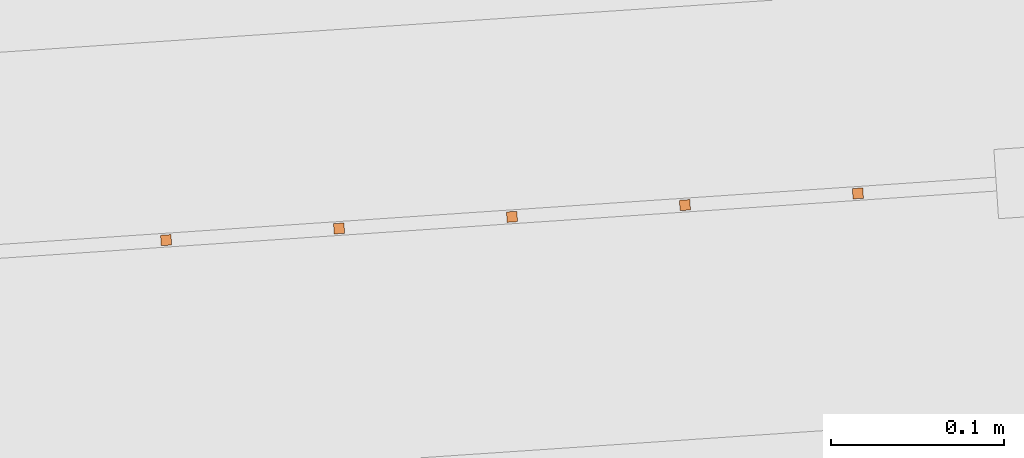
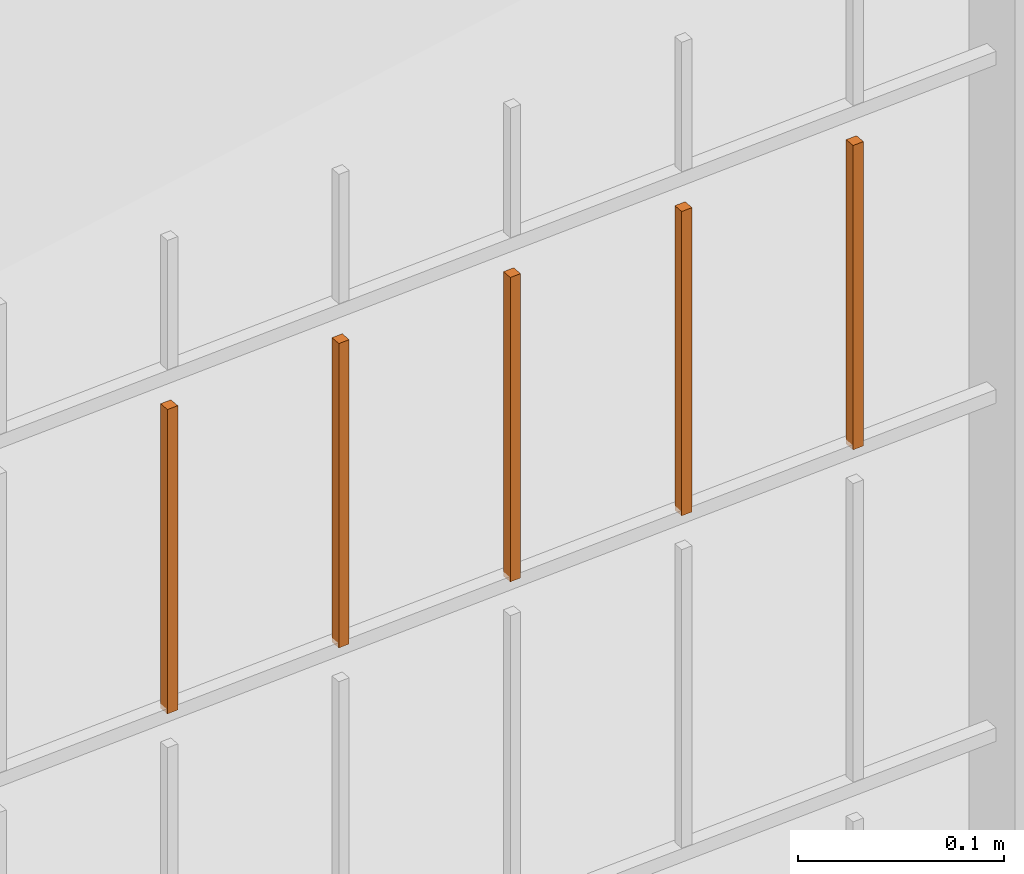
# One storey, part 134 of 1809: 5 proxies, 1 element without a shape of its own.
"""IFC2X3 building model written with IfcOpenShell, lengths in millimetres."""

from ifc_helpers import new_model, entity, si_unit, converted_unit, derived_unit, money_unit, direction, frame, origin_with_axes, place, context, subcontext, project, spatial, faceted_brep, source, transform, mapped, material, type_object, element, aggregate, save


model = new_model("IFC2X3")

# Units and contexts
model_context = context("Model", 3, precision=0.01, world=origin_with_axes(), true_north=direction((0.0, 1.0)))
body_context = subcontext(model_context, "Body", "Model", "MODEL_VIEW")
ifc_project = project(units=[si_unit("LENGTHUNIT", "METRE", prefix="MILLI"), si_unit("AREAUNIT", "SQUARE_METRE"), si_unit("VOLUMEUNIT", "CUBIC_METRE"), converted_unit("PLANEANGLEUNIT", "DEGREE", entity("IfcPlaneAngleMeasure", 0.0174532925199), si_unit("PLANEANGLEUNIT", "RADIAN"), dimensions=[0, 0, 0, 0, 0, 0, 0]), si_unit("SOLIDANGLEUNIT", "STERADIAN"), money_unit("EUR"), converted_unit("TIMEUNIT", "Year", entity("IfcTimeMeasure", 31556926.0), si_unit("TIMEUNIT", "SECOND"), dimensions=[0, 0, 1, 0, 0, 0, 0]), si_unit("MASSUNIT", "GRAM", prefix="KILO"), si_unit("THERMODYNAMICTEMPERATUREUNIT", "DEGREE_CELSIUS"), si_unit("LUMINOUSINTENSITYUNIT", "LUMEN"), si_unit("ENERGYUNIT", "JOULE", prefix="MEGA"), derived_unit("THERMALCONDUCTANCEUNIT", [(si_unit("POWERUNIT", "WATT"), 1), (si_unit("LENGTHUNIT", "METRE"), -1), (si_unit("THERMODYNAMICTEMPERATUREUNIT", "KELVIN"), -1)]), derived_unit("SPECIFICHEATCAPACITYUNIT", [(si_unit("ENERGYUNIT", "JOULE"), 1), (si_unit("MASSUNIT", "GRAM", prefix="KILO"), -1), (si_unit("THERMODYNAMICTEMPERATUREUNIT", "KELVIN"), -1)]), derived_unit("MASSDENSITYUNIT", [(si_unit("MASSUNIT", "GRAM", prefix="KILO"), 1), (si_unit("VOLUMEUNIT", "CUBIC_METRE"), -1)])], contexts=[model_context])

# Site, building, storey
site_placement = place(None, origin_with_axes())
site = spatial("IfcSite", under=ifc_project, at=site_placement, Name="Politse- ja Piirivalveameti ning Päästeameti ühishoone", CompositionType="ELEMENT")
building_placement = place(site_placement, origin_with_axes())
building = spatial("IfcBuilding", under=site, at=building_placement, Name="Politse- ja Piirivalveameti ning Päästeameti ühishoone", CompositionType="ELEMENT")
storey_placement = place(building_placement, origin_with_axes())
storey = spatial("IfcBuildingStorey", under=building, at=storey_placement, Name="Esimene korrus", CompositionType="ELEMENT", Elevation=0.0)

# Proxies
building_element_proxy_type_1 = type_object("IfcBuildingElementProxyType", Name="Railing Type", PredefinedType="NOTDEFINED")
proxy_1_placement = place(storey_placement, frame((89252.001212, -29183.4766571, 203.661247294), z_axis=(0.0, 0.0, 1.0), x_axis=(1.0, 0.0, 0.0)))
proxy_1 = element("IfcBuildingElementProxy", 1, at=proxy_1_placement, inside=storey, type_object=building_element_proxy_type_1, Name="PIIRDEAED")
ifc_material = material(Name="ET-03_Raud")
building_element_proxy_type_2 = type_object("IfcBuildingElementProxyType", Name="IfcBuildingElementProxy", PredefinedType="NOTDEFINED")
shared_shape_1 = source(origin_with_axes(), body_context, "Body", "Brep", [
    faceted_brep([(3.0, 3.0, -0.000752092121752), (-3.0, 3.0, -0.000752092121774), (-3.0, 3.0, 179.99926046), (3.0, 3.0, 179.99926046), (3.0, -3.0, 0.000752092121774), (-3.0, -3.0, 0.000752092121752), (-3.0, -3.0, 180.000764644), (3.0, -3.0, 180.000764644)], [[[0, 1, 2, 3]], [[0, 4, 5, 1]], [[1, 5, 6, 2]], [[3, 2, 6, 7]], [[4, 0, 3, 7]], [[5, 4, 7, 6]]]),
])
proxy_2_placement = place(proxy_1_placement, frame((-89822.0150162, -23364.9128999, 1804.66493125), z_axis=(0.0, 0.0, 1.0), x_axis=(1.0, 0.0, 0.0)))
proxy_2 = element("IfcBuildingElementProxy", 2, at=proxy_2_placement, type_object=building_element_proxy_type_2, material=ifc_material, Name="BALUSTER - 001", context=body_context, shape_type="MappedRepresentation", body=[
    mapped(shared_shape_1, transform((0.0, 0.0, 0.0), x_axis=(-0.0673926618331, 0.997726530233, 0.0), y_axis=(-0.997726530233, -0.0673926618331, 0.0), z_axis=(0.0, 0.0, 1.0))),
])
shared_shape_2 = source(origin_with_axes(), body_context, "Body", "Brep", [
    faceted_brep([(3.0, 3.0, -0.000752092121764), (-3.0, 3.0, -0.000752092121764), (-3.0, 3.0, 179.99926046), (3.0, 3.0, 179.99926046), (3.0, -3.0, 0.000752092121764), (-3.0, -3.0, 0.000752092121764), (-3.0, -3.0, 180.000764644), (3.0, -3.0, 180.000764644)], [[[0, 1, 2, 3]], [[0, 4, 5, 1]], [[1, 5, 6, 2]], [[3, 2, 6, 7]], [[4, 0, 3, 7]], [[5, 4, 7, 6]]]),
])
proxy_3_placement = place(proxy_1_placement, frame((-89921.7876692, -23371.6521661, 1804.63986152), z_axis=(0.0, 0.0, 1.0), x_axis=(1.0, 0.0, 0.0)))
proxy_3 = element("IfcBuildingElementProxy", 3, at=proxy_3_placement, type_object=building_element_proxy_type_2, material=ifc_material, Name="BALUSTER - 001", context=body_context, shape_type="MappedRepresentation", body=[
    mapped(shared_shape_2, transform((0.0, 0.0, 0.0), x_axis=(-0.0673926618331, 0.997726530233, 0.0), y_axis=(-0.997726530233, -0.0673926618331, 0.0), z_axis=(0.0, 0.0, 1.0))),
])
shared_shape_3 = source(origin_with_axes(), body_context, "Body", "Brep", [
    faceted_brep([(3.0, 3.0, -0.000752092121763), (-3.0, 3.0, -0.000752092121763), (-3.0, 3.0, 179.99926046), (3.0, 3.0, 179.99926046), (3.0, -3.0, 0.000752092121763), (-3.0, -3.0, 0.000752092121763), (-3.0, -3.0, 180.000764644), (3.0, -3.0, 180.000764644)], [[[0, 1, 2, 3]], [[0, 4, 5, 1]], [[1, 5, 6, 2]], [[3, 2, 6, 7]], [[4, 0, 3, 7]], [[5, 4, 7, 6]]]),
])
proxy_4_placement = place(proxy_1_placement, frame((-90021.5603222, -23378.3914323, 1804.61479178), z_axis=(0.0, 0.0, 1.0), x_axis=(1.0, 0.0, 0.0)))
proxy_4 = element("IfcBuildingElementProxy", 4, at=proxy_4_placement, type_object=building_element_proxy_type_2, material=ifc_material, Name="BALUSTER - 001", context=body_context, shape_type="MappedRepresentation", body=[
    mapped(shared_shape_3, transform((0.0, 0.0, 0.0), x_axis=(-0.0673926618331, 0.997726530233, 0.0), y_axis=(-0.997726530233, -0.0673926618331, 0.0), z_axis=(0.0, 0.0, 1.0))),
])
shared_shape_4 = source(origin_with_axes(), body_context, "Body", "Brep", [
    faceted_brep([(3.0, 3.0, -0.000752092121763), (-3.0, 3.0, -0.000752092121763), (-3.0, 3.0, 179.99926046), (3.0, 3.0, 179.99926046), (3.0, -3.0, 0.000752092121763), (-3.0, -3.0, 0.000752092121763), (-3.0, -3.0, 180.000764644), (3.0, -3.0, 180.000764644)], [[[0, 1, 2, 3]], [[0, 4, 5, 1]], [[1, 5, 6, 2]], [[3, 2, 6, 7]], [[4, 0, 3, 7]], [[5, 4, 7, 6]]]),
])
proxy_5_placement = place(proxy_1_placement, frame((-90121.3329752, -23385.1306984, 1804.58972204), z_axis=(0.0, 0.0, 1.0), x_axis=(1.0, 0.0, 0.0)))
proxy_5 = element("IfcBuildingElementProxy", 5, at=proxy_5_placement, type_object=building_element_proxy_type_2, material=ifc_material, Name="BALUSTER - 001", context=body_context, shape_type="MappedRepresentation", body=[
    mapped(shared_shape_4, transform((0.0, 0.0, 0.0), x_axis=(-0.0673926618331, 0.997726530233, 0.0), y_axis=(-0.997726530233, -0.0673926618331, 0.0), z_axis=(0.0, 0.0, 1.0))),
])
shared_shape_5 = source(origin_with_axes(), body_context, "Body", "Brep", [
    faceted_brep([(3.0, 3.0, -0.000752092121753), (-3.0, 3.0, -0.000752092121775), (-3.0, 3.0, 179.99926046), (3.0, 3.0, 179.99926046), (3.0, -3.0, 0.000752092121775), (-3.0, -3.0, 0.000752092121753), (-3.0, -3.0, 180.000764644), (3.0, -3.0, 180.000764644)], [[[0, 1, 2, 3]], [[0, 4, 5, 1]], [[1, 5, 6, 2]], [[3, 2, 6, 7]], [[4, 0, 3, 7]], [[5, 4, 7, 6]]]),
])
proxy_6_placement = place(proxy_1_placement, frame((-89722.2423631, -23358.1736337, 1804.69000099), z_axis=(0.0, 0.0, 1.0), x_axis=(1.0, 0.0, 0.0)))
proxy_6 = element("IfcBuildingElementProxy", 6, at=proxy_6_placement, type_object=building_element_proxy_type_2, material=ifc_material, Name="BALUSTER - 001", context=body_context, shape_type="MappedRepresentation", body=[
    mapped(shared_shape_5, transform((0.0, 0.0, 0.0), x_axis=(-0.0673926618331, 0.997726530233, 0.0), y_axis=(-0.997726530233, -0.0673926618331, 0.0), z_axis=(0.0, 0.0, 1.0))),
])
aggregate(proxy_1, [proxy_6, proxy_2, proxy_3, proxy_4, proxy_5])

save(model, "model.ifc")
